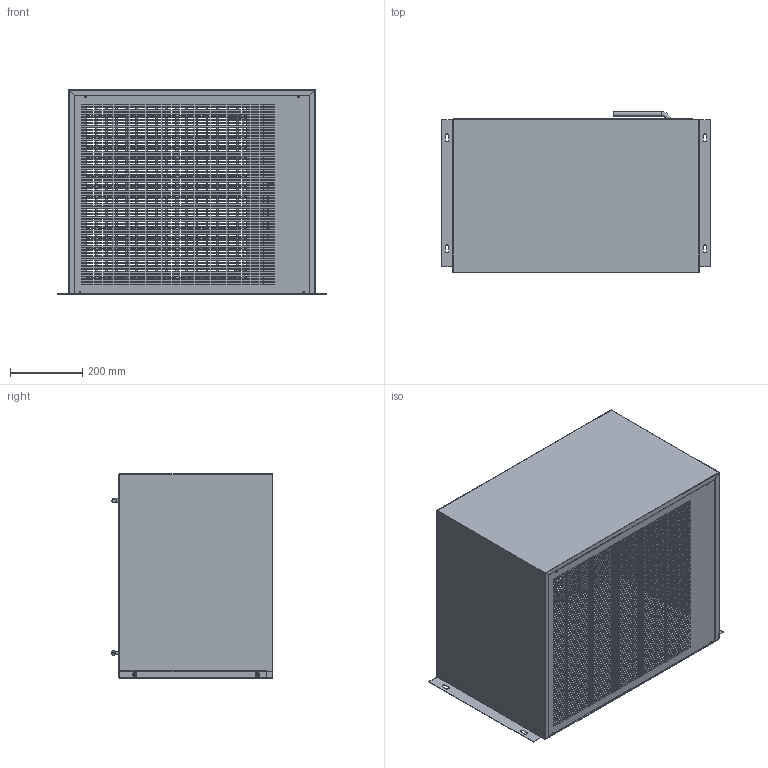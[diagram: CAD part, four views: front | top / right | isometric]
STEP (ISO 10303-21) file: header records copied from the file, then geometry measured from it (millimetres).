
FILE_DESCRIPTION(/* description */ ('Unknown','CAx-IF Rec.Pracs.---Representation and Presentation of Product Manufacturing Information (PMI)---4.0---2014-10-13','CAx-IF Rec.Pracs.---3D Tessellated Geometry---0.4---2014-09-14','2;1'),/* implementation_level */ '2;1');
FILE_NAME(/* name */ '28-181+20400',/* time_stamp */ '2025-06-18T14:35:45+02:00',/* author */ ('Unknown'),/* organization */ ('Unknown'),/* preprocessor_version */ 'ST-DEVELOPER v20',/* originating_system */ 'Solid Edge',/* authorisation */ 'Unknown');
FILE_SCHEMA (('AP242_MANAGED_MODEL_BASED_3D_ENGINEERING_MIM_LF { 1 0 10303 442 1 1 4 }'));
Products named in the file (13): 28-181+20400; 28-132+8160; 39-81-R01_oa_0; 28-182+8150; 50-35+3825; 28-183+8151; 50-35+6782; 28-186+8157; 335_Valvula Schrader CAP; 28-184+8153; 28-185+8155; 2520+pasacables 30; 50-35+3712
Assembly tree (13 placements, depth 3):
  28-181+20400
    28-132+8160
    39-81-R01_oa_0
      28-182+8150
      50-35+3825
      28-183+8151
      50-35+6782
      28-186+8157
      335_Valvula Schrader CAP
      28-184+8153
      28-185+8155
      2520+pasacables 30  x2
      50-35+3712
Bounding box: 746 x 447.84 x 567.06 mm (x, y, z)
Volume: 1674090 mm3; surface area: 3774506.3 mm2
Topology: 12 solids, 12 shells, 4384 faces, 12935 edges, 8570 vertices
Faces by surface type: plane 4093, cylinder 243, bspline 36, torus 12
Full cylindrical faces by diameter (mm): 2.7 x30, 4 x5, 4.2 x12, 4.35 x1, 4.4 x1, 5 x11, 6 x9, 6.001 x4, 6.35 x1, 7.525 x2, 8 x1, 9 x2, 9.525 x2, 10.7 x2, 12 x2, 12.001 x4, 12.01 x3, 12.7 x2, 13 x1, 20 x2, 25 x2, 30 x4, 44 x4
Entity records: 147026 total; most frequent: CARTESIAN_POINT 26419, ORIENTED_EDGE 25480, DIRECTION 21884, EDGE_CURVE 12740, LINE 12254, VECTOR 12254, VERTEX_POINT 8494, EDGE_LOOP 6564
